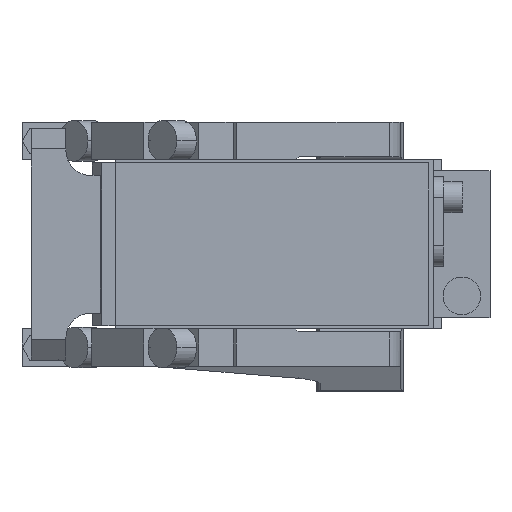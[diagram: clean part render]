
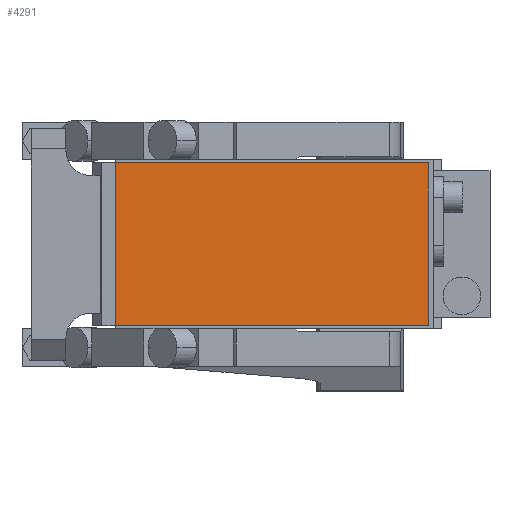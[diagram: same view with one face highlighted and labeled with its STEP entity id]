
A CAD part, front view. The second image highlights one B-rep face of the part: STEP entity #4291.
In plain terms, the highlighted planar face has unit normal (0, -1, 0).
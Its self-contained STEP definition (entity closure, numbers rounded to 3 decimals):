
#185 = ORIENTED_EDGE ( 'NONE', *, *, #8126, .T. ) ;
#365 = CARTESIAN_POINT ( 'NONE',  ( -19., -286.5, -26. ) ) ;
#512 = LINE ( 'NONE', #4020, #14593 ) ;
#1562 = CARTESIAN_POINT ( 'NONE',  ( -19., -286.5, 26. ) ) ;
#1795 = CARTESIAN_POINT ( 'NONE',  ( -19., -286.5, 26. ) ) ;
#1883 = DIRECTION ( 'NONE',  ( 0., 0., -1. ) ) ;
#2483 = DIRECTION ( 'NONE',  ( 1., 0., 0. ) ) ;
#2535 = AXIS2_PLACEMENT_3D ( 'NONE', #4347, #12461, #1883 ) ;
#2878 = DIRECTION ( 'NONE',  ( 0., 0., 1. ) ) ;
#2985 = EDGE_CURVE ( 'NONE', #9907, #10512, #512, .T. ) ;
#3219 = VECTOR ( 'NONE', #6437, 1000. ) ;
#3446 = LINE ( 'NONE', #7074, #6103 ) ;
#3860 = ORIENTED_EDGE ( 'NONE', *, *, #2985, .T. ) ;
#4020 = CARTESIAN_POINT ( 'NONE',  ( 81., -286.5, 26. ) ) ;
#4291 = ADVANCED_FACE ( 'NONE', ( #13610 ), #10319, .T. ) ;
#4347 = CARTESIAN_POINT ( 'NONE',  ( 0., -286.5, 0. ) ) ;
#6103 = VECTOR ( 'NONE', #9477, 1000. ) ;
#6437 = DIRECTION ( 'NONE',  ( 0., 0., -1. ) ) ;
#7074 = CARTESIAN_POINT ( 'NONE',  ( -19., -286.5, 26. ) ) ;
#7282 = EDGE_LOOP ( 'NONE', ( #11574, #10262, #3860, #185 ) ) ;
#7515 = LINE ( 'NONE', #1795, #3219 ) ;
#8126 = EDGE_CURVE ( 'NONE', #10512, #9939, #3446, .T. ) ;
#8296 = CARTESIAN_POINT ( 'NONE',  ( -19., -286.5, -26. ) ) ;
#8732 = EDGE_CURVE ( 'NONE', #9939, #12193, #7515, .T. ) ;
#9477 = DIRECTION ( 'NONE',  ( -1., 0., 0. ) ) ;
#9907 = VERTEX_POINT ( 'NONE', #11981 ) ;
#9939 = VERTEX_POINT ( 'NONE', #1562 ) ;
#10262 = ORIENTED_EDGE ( 'NONE', *, *, #11260, .T. ) ;
#10319 = PLANE ( 'NONE',  #2535 ) ;
#10512 = VERTEX_POINT ( 'NONE', #12159 ) ;
#10993 = VECTOR ( 'NONE', #2483, 1000. ) ;
#11260 = EDGE_CURVE ( 'NONE', #12193, #9907, #12007, .T. ) ;
#11574 = ORIENTED_EDGE ( 'NONE', *, *, #8732, .T. ) ;
#11981 = CARTESIAN_POINT ( 'NONE',  ( 81., -286.5, -26. ) ) ;
#12007 = LINE ( 'NONE', #8296, #10993 ) ;
#12159 = CARTESIAN_POINT ( 'NONE',  ( 81., -286.5, 26. ) ) ;
#12193 = VERTEX_POINT ( 'NONE', #365 ) ;
#12461 = DIRECTION ( 'NONE',  ( 0., -1., 0. ) ) ;
#13610 = FACE_OUTER_BOUND ( 'NONE', #7282, .T. ) ;
#14593 = VECTOR ( 'NONE', #2878, 1000. ) ;
